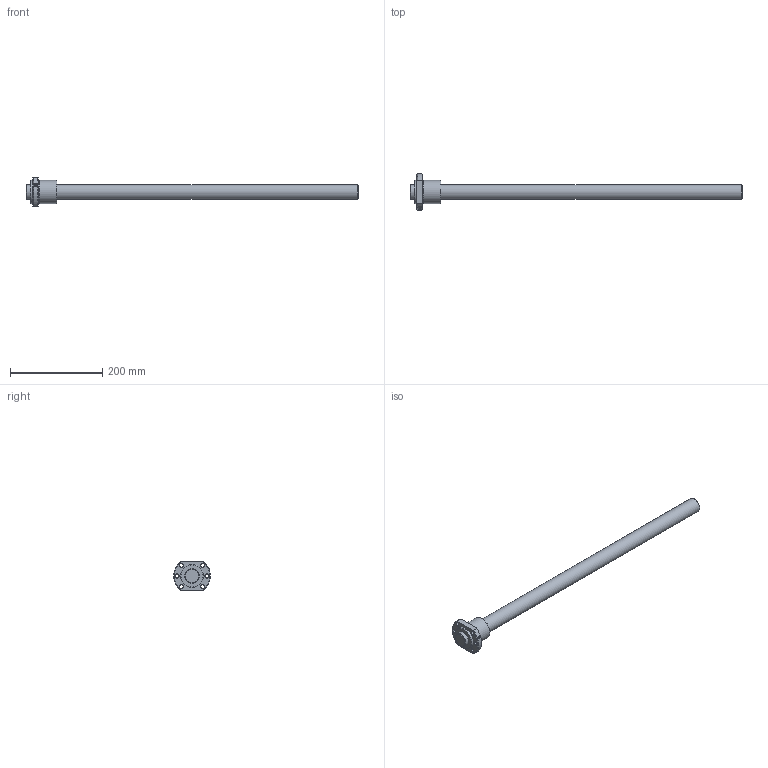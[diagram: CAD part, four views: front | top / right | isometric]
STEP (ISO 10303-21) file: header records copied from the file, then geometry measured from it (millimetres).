
FILE_DESCRIPTION(/* description */ ('STEP AP214'),/* implementation_level */ '2;1');
FILE_NAME(/* name */ 'EBB3205-4RRG0+720LC0-ebb2(643G000)-ebb2',/* time_stamp */ '2023-08-03T12:47:19+02:00',/* author */ ('License CC BY-ND 4.0'),/* organization */ ('CADENAS'),/* preprocessor_version */ 'ST-DEVELOPER v19.3',/* originating_system */ 'PARTsolutions',/* authorisation */ ' ');
FILE_SCHEMA (('AUTOMOTIVE_DESIGN {1 0 10303 214 3 1 1}'));
Length unit declared in the file: millimetre
Products named in the file (3): EBB3205-4RRG0+720LC0-ebb2(643G000)-ebb2; EBB 3205-4RR Nut2; EBB 3205-46430 Shaft2
Assembly tree (2 placements, depth 2):
  EBB3205-4RRG0+720LC0-ebb2(643G000)-ebb2
    EBB 3205-4RR Nut2
    EBB 3205-46430 Shaft2
Bounding box: 720 x 79.74 x 62 mm (x, y, z)
Volume: 668096.3 mm3; surface area: 98354.6 mm2
Topology: 2 solids, 2 shells, 32 faces, 72 edges, 47 vertices
Faces by surface type: cylinder 14, cone 9, plane 9
Full cylindrical faces by diameter (mm): 4.917 x1, 9 x6, 32 x2, 47 x1, 50 x2
Entity records: 935 total; most frequent: CARTESIAN_POINT 177, DIRECTION 148, ORIENTED_EDGE 106, AXIS2_PLACEMENT_3D 70, EDGE_LOOP 68, FACE_BOUND 68, EDGE_CURVE 53, VERTEX_POINT 45
